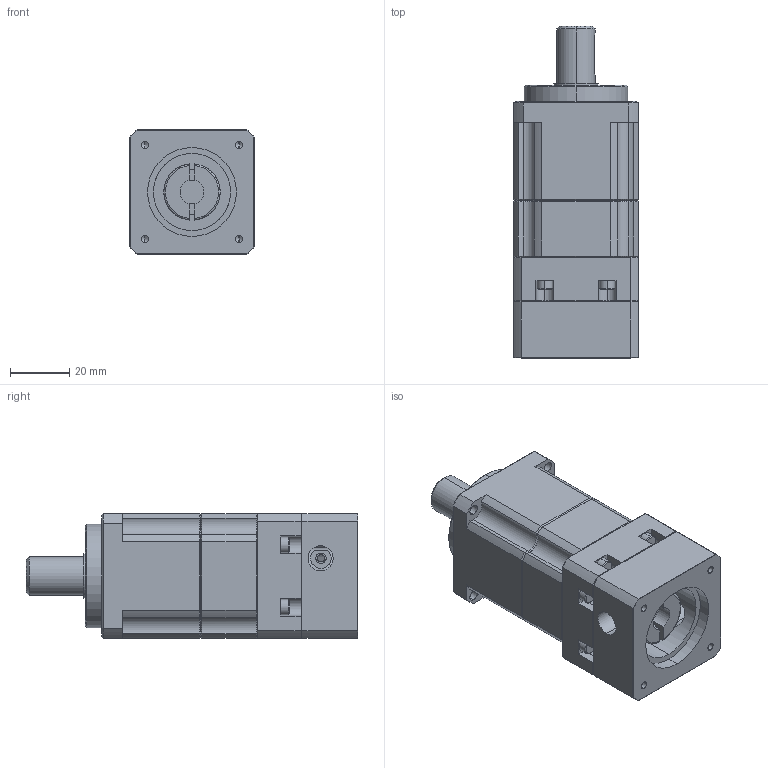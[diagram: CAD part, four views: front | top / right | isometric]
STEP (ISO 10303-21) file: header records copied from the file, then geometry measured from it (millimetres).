
FILE_DESCRIPTION (( 'STEP AP203' ), '1' );
FILE_NAME ('MF40H-L2£r30PCD£r45M3.STEP', '2014-04-17T01:54:07', ( 'KELLY' ), ( '' ), 'SwSTEP 2.0', 'SolidWorks 2012', '' );
FILE_SCHEMA (( 'CONFIG_CONTROL_DESIGN' ));
Length unit declared in the file: millimetre
Products named in the file (1): MF40H-L2｣r30PCD｣r45M3
Bounding box: 42 x 112 x 42 mm (x, y, z)
Volume: 134912.6 mm3; surface area: 32005 mm2
Topology: 3 solids, 3 shells, 402 faces, 936 edges, 553 vertices
Faces by surface type: plane 164, cylinder 132, cone 102, torus 4
Entity records: 11797 total; most frequent: CARTESIAN_POINT 2578, DIRECTION 1964, ORIENTED_EDGE 1852, EDGE_CURVE 926, AXIS2_PLACEMENT_3D 745, VERTEX_POINT 553, VECTOR 474, LINE 474
